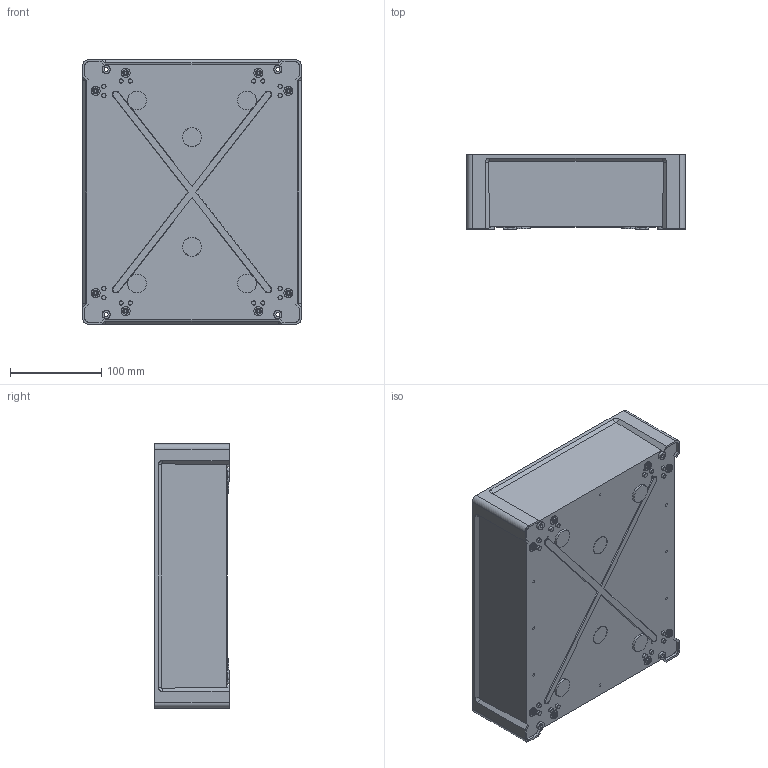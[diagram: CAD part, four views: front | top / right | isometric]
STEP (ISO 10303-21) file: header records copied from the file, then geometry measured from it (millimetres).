
FILE_DESCRIPTION (( 'STEP AP214' ), '1' );
FILE_NAME ('FIBOX TEMPO 2924 Base.STEP', '2006-11-28T10:11:47', ( 'JuhaniH' ), ( 'Fibox Oy' ), 'SwSTEP 2.0', 'SolidWorks 2006233', '' );
FILE_SCHEMA (( 'AUTOMOTIVE_DESIGN' ));
Length unit declared in the file: millimetre
Products named in the file (1): FIBOX TEMPO 2924 Base
Bounding box: 239 x 81.4 x 289 mm (x, y, z)
Volume: 523272.7 mm3; surface area: 320280.5 mm2
Topology: 1 solids, 1 shells, 717 faces, 1726 edges, 1140 vertices
Faces by surface type: plane 343, cone 326, cylinder 48
Entity records: 21313 total; most frequent: CARTESIAN_POINT 3972, DIRECTION 3808, ORIENTED_EDGE 3452, EDGE_CURVE 1726, AXIS2_PLACEMENT_3D 1460, VERTEX_POINT 1140, VECTOR 888, LINE 888
